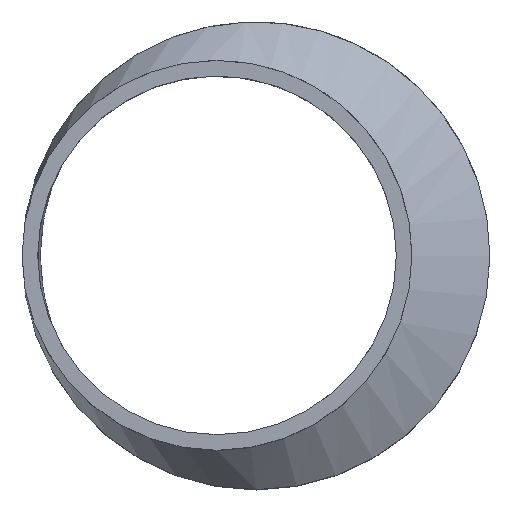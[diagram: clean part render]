
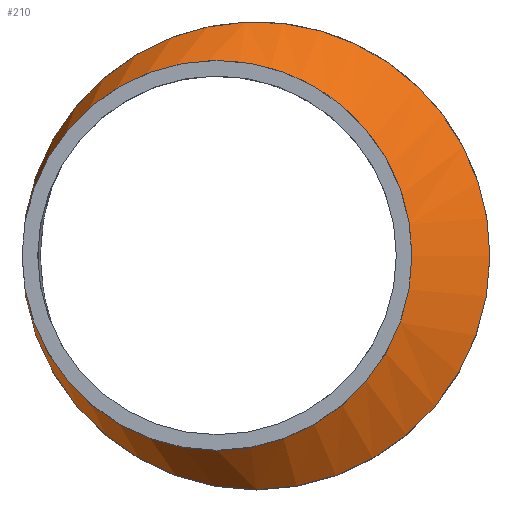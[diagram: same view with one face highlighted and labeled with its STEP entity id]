
A CAD part, top view. The second image highlights one B-rep face of the part: STEP entity #210.
In plain terms, the highlighted free-form (B-spline) face has degree [1, 2] with [2, 9] control points.
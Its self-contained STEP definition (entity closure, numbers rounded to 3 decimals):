
#15=B_SPLINE_CURVE_WITH_KNOTS($,1,(#401,#402),.UNSPECIFIED.,.F.,.F.,(2,
2),(-0.278,0.),.UNSPECIFIED.);
#17=(
BOUNDED_SURFACE()
B_SPLINE_SURFACE(1,2,((#379,#380,#381,#382,#383,#384,#385,#386,#387),(#388,
#389,#390,#391,#392,#393,#394,#395,#396)),.UNSPECIFIED.,.F.,.T.,.F.)
B_SPLINE_SURFACE_WITH_KNOTS((2,2),(3,2,2,2,3),(-0.938,0.654),
(-3.142,-1.571,0.,1.571,3.142),
 .UNSPECIFIED.)
GEOMETRIC_REPRESENTATION_ITEM()
RATIONAL_B_SPLINE_SURFACE(((1.,0.707,1.,0.707,1.,
0.707,1.,0.707,1.),(1.,0.707,1.,0.707,
1.,0.707,1.,0.707,1.)))
REPRESENTATION_ITEM($)
SURFACE()
);
#47=FACE_OUTER_BOUND($,#67,.T.);
#67=EDGE_LOOP($,(#167,#168,#169,#170,#171,#172));
#83=CIRCLE($,#231,45.);
#84=CIRCLE($,#232,45.);
#93=CIRCLE($,#243,37.5);
#94=CIRCLE($,#244,37.5);
#103=VERTEX_POINT($,#337);
#104=VERTEX_POINT($,#338);
#113=VERTEX_POINT($,#397);
#114=VERTEX_POINT($,#398);
#123=EDGE_CURVE($,#103,#104,#83,.T.);
#124=EDGE_CURVE($,#104,#103,#84,.T.);
#134=EDGE_CURVE($,#113,#114,#93,.T.);
#135=EDGE_CURVE($,#114,#113,#94,.T.);
#136=EDGE_CURVE($,#114,#104,#15,.T.);
#167=ORIENTED_EDGE($,*,*,#134,.F.);
#168=ORIENTED_EDGE($,*,*,#135,.F.);
#169=ORIENTED_EDGE($,*,*,#136,.T.);
#170=ORIENTED_EDGE($,*,*,#123,.F.);
#171=ORIENTED_EDGE($,*,*,#124,.F.);
#172=ORIENTED_EDGE($,*,*,#136,.F.);
#210=ADVANCED_FACE($,(#47),#17,.F.);
#231=AXIS2_PLACEMENT_3D($,#339,#278,#279);
#232=AXIS2_PLACEMENT_3D($,#340,#280,#281);
#243=AXIS2_PLACEMENT_3D($,#399,#302,#303);
#244=AXIS2_PLACEMENT_3D($,#400,#304,#305);
#278=DIRECTION('center_axis',(0.,0.,-1.));
#279=DIRECTION('ref_axis',(-1.,0.,0.));
#280=DIRECTION('center_axis',(0.,0.,-1.));
#281=DIRECTION('ref_axis',(-1.,0.,0.));
#302=DIRECTION('center_axis',(0.,0.,1.));
#303=DIRECTION('ref_axis',(-1.,0.,0.));
#304=DIRECTION('center_axis',(0.,0.,1.));
#305=DIRECTION('ref_axis',(-1.,0.,0.));
#337=CARTESIAN_POINT('',(45.,0.,37.));
#338=CARTESIAN_POINT('',(-16.2,41.983,37.));
#339=CARTESIAN_POINT('Origin',(0.,0.,37.));
#340=CARTESIAN_POINT('Origin',(0.,0.,37.));
#379=CARTESIAN_POINT('Ctrl Pts',(0.,65.598,
10.));
#380=CARTESIAN_POINT('Ctrl Pts',(-45.,65.598,-17.));
#381=CARTESIAN_POINT('Ctrl Pts',(-45.,0.,-17.));
#382=CARTESIAN_POINT('Ctrl Pts',(-45.,-65.598,-17.));
#383=CARTESIAN_POINT('Ctrl Pts',(0.,-65.598,
10.));
#384=CARTESIAN_POINT('Ctrl Pts',(45.,-65.598,37.));
#385=CARTESIAN_POINT('Ctrl Pts',(45.,0.,37.));
#386=CARTESIAN_POINT('Ctrl Pts',(45.,65.598,37.));
#387=CARTESIAN_POINT('Ctrl Pts',(0.,65.598,
10.));
#388=CARTESIAN_POINT('Ctrl Pts',(-27.5,25.51,55.834));
#389=CARTESIAN_POINT('Ctrl Pts',(-45.,25.51,45.334));
#390=CARTESIAN_POINT('Ctrl Pts',(-45.,0.,45.334));
#391=CARTESIAN_POINT('Ctrl Pts',(-45.,-25.51,45.334));
#392=CARTESIAN_POINT('Ctrl Pts',(-27.5,-25.51,55.834));
#393=CARTESIAN_POINT('Ctrl Pts',(-10.001,-25.51,66.334));
#394=CARTESIAN_POINT('Ctrl Pts',(-10.001,0.,
66.334));
#395=CARTESIAN_POINT('Ctrl Pts',(-10.001,25.51,66.334));
#396=CARTESIAN_POINT('Ctrl Pts',(-27.5,25.51,55.834));
#397=CARTESIAN_POINT('',(30.,0.,45.));
#398=CARTESIAN_POINT('',(-21.,34.986,45.));
#399=CARTESIAN_POINT('Origin',(-7.5,0.,45.));
#400=CARTESIAN_POINT('Origin',(-7.5,0.,45.));
#401=CARTESIAN_POINT('Ctrl Pts',(-21.,34.986,45.));
#402=CARTESIAN_POINT('Ctrl Pts',(-16.2,41.983,37.));
